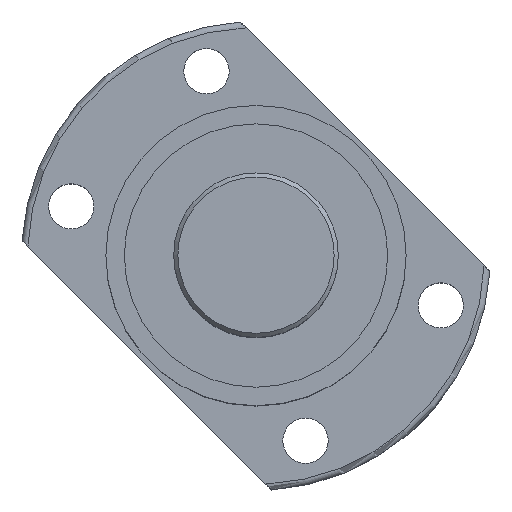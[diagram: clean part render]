
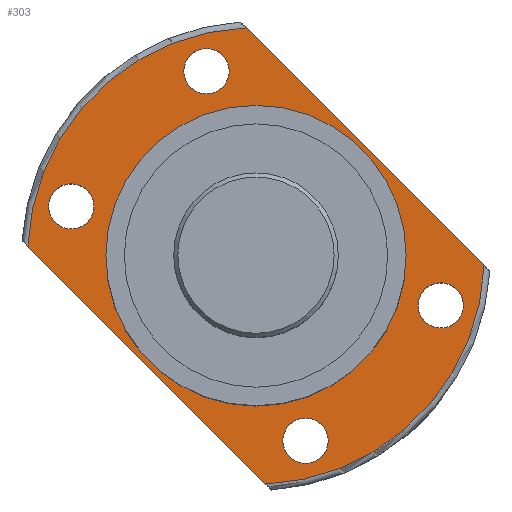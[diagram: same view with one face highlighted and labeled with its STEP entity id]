
A CAD part, top view. The second image highlights one B-rep face of the part: STEP entity #303.
In plain terms, the highlighted planar face has unit normal (0, 0, 1) as drawn and (1, 0, 0) by its records, which use the part's own axes.
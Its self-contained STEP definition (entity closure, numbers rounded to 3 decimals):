
#103=LINE('',#1418,#111);
#104=LINE('',#1423,#112);
#111=VECTOR('',#1103,1.);
#112=VECTOR('',#1106,1.);
#238=FACE_BOUND('',#430,.T.);
#239=FACE_BOUND('',#431,.T.);
#240=FACE_BOUND('',#432,.T.);
#241=FACE_BOUND('',#433,.T.);
#242=FACE_BOUND('',#434,.T.);
#243=FACE_BOUND('',#435,.T.);
#303=ADVANCED_FACE('',(#238,#239,#240,#241,#242,#243),#336,.T.);
#336=PLANE('',#897);
#430=EDGE_LOOP('',(#546));
#431=EDGE_LOOP('',(#547));
#432=EDGE_LOOP('',(#548));
#433=EDGE_LOOP('',(#549));
#434=EDGE_LOOP('',(#550));
#435=EDGE_LOOP('',(#551,#552,#553,#554));
#546=ORIENTED_EDGE('',*,*,#696,.F.);
#547=ORIENTED_EDGE('',*,*,#724,.F.);
#548=ORIENTED_EDGE('',*,*,#725,.F.);
#549=ORIENTED_EDGE('',*,*,#726,.F.);
#550=ORIENTED_EDGE('',*,*,#727,.F.);
#551=ORIENTED_EDGE('',*,*,#728,.T.);
#552=ORIENTED_EDGE('',*,*,#729,.T.);
#553=ORIENTED_EDGE('',*,*,#730,.T.);
#554=ORIENTED_EDGE('',*,*,#731,.T.);
#630=VERTEX_POINT('',#1221);
#658=VERTEX_POINT('',#1411);
#659=VERTEX_POINT('',#1413);
#660=VERTEX_POINT('',#1415);
#661=VERTEX_POINT('',#1417);
#662=VERTEX_POINT('',#1419);
#663=VERTEX_POINT('',#1420);
#664=VERTEX_POINT('',#1422);
#665=VERTEX_POINT('',#1424);
#696=EDGE_CURVE('',#630,#630,#770,.T.);
#724=EDGE_CURVE('',#658,#658,#792,.T.);
#725=EDGE_CURVE('',#659,#659,#793,.T.);
#726=EDGE_CURVE('',#660,#660,#794,.T.);
#727=EDGE_CURVE('',#661,#661,#795,.T.);
#728=EDGE_CURVE('',#662,#663,#103,.T.);
#729=EDGE_CURVE('',#663,#664,#796,.T.);
#730=EDGE_CURVE('',#664,#665,#104,.T.);
#731=EDGE_CURVE('',#665,#662,#797,.T.);
#770=CIRCLE('',#849,36.5);
#792=CIRCLE('',#891,5.5);
#793=CIRCLE('',#892,5.5);
#794=CIRCLE('',#893,5.5);
#795=CIRCLE('',#894,5.5);
#796=CIRCLE('',#895,55.5);
#797=CIRCLE('',#896,55.5);
#849=AXIS2_PLACEMENT_3D('',#1220,#1007,#1008);
#891=AXIS2_PLACEMENT_3D('',#1410,#1095,#1096);
#892=AXIS2_PLACEMENT_3D('',#1412,#1097,#1098);
#893=AXIS2_PLACEMENT_3D('',#1414,#1099,#1100);
#894=AXIS2_PLACEMENT_3D('',#1416,#1101,#1102);
#895=AXIS2_PLACEMENT_3D('',#1421,#1104,#1105);
#896=AXIS2_PLACEMENT_3D('',#1425,#1107,#1108);
#897=AXIS2_PLACEMENT_3D('',#1426,#1109,#1110);
#1007=DIRECTION('',(1.,0.,0.));
#1008=DIRECTION('',(0.,0.,-1.));
#1095=DIRECTION('',(1.,0.,0.));
#1096=DIRECTION('',(0.,-0.707,-0.707));
#1097=DIRECTION('',(1.,0.,0.));
#1098=DIRECTION('',(0.,-0.707,-0.707));
#1099=DIRECTION('',(1.,0.,0.));
#1100=DIRECTION('',(0.,-0.707,-0.707));
#1101=DIRECTION('',(1.,0.,0.));
#1102=DIRECTION('',(0.,-0.707,-0.707));
#1103=DIRECTION('',(0.,-0.707,-0.707));
#1104=DIRECTION('',(1.,0.,0.));
#1105=DIRECTION('',(0.,0.,-1.));
#1106=DIRECTION('',(0.,0.707,0.707));
#1107=DIRECTION('',(1.,0.,0.));
#1108=DIRECTION('',(0.,0.,-1.));
#1109=DIRECTION('',(1.,0.,0.));
#1110=DIRECTION('',(0.,-0.707,-0.707));
#1220=CARTESIAN_POINT('',(106.57,56.263,0.));
#1221=CARTESIAN_POINT('',(106.57,56.263,-36.5));
#1410=CARTESIAN_POINT('',(106.57,101.179,12.035));
#1411=CARTESIAN_POINT('',(106.57,97.289,8.146));
#1412=CARTESIAN_POINT('',(106.57,68.298,44.916));
#1413=CARTESIAN_POINT('',(106.57,64.409,41.026));
#1414=CARTESIAN_POINT('',(106.57,44.228,-44.916));
#1415=CARTESIAN_POINT('',(106.57,40.339,-48.805));
#1416=CARTESIAN_POINT('',(106.57,11.347,-12.035));
#1417=CARTESIAN_POINT('',(106.57,7.458,-15.924));
#1418=CARTESIAN_POINT('',(106.57,29.747,26.517));
#1419=CARTESIAN_POINT('',(106.57,58.677,55.447));
#1420=CARTESIAN_POINT('',(106.57,0.816,-2.414));
#1421=CARTESIAN_POINT('',(106.57,56.263,0.));
#1422=CARTESIAN_POINT('',(106.57,53.849,-55.447));
#1423=CARTESIAN_POINT('',(106.57,82.78,-26.517));
#1424=CARTESIAN_POINT('',(106.57,111.71,2.414));
#1425=CARTESIAN_POINT('',(106.57,56.263,0.));
#1426=CARTESIAN_POINT('',(106.57,96.568,-40.305));
